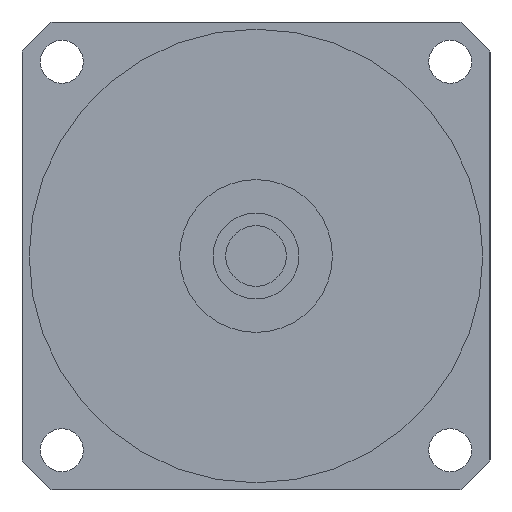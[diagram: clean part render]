
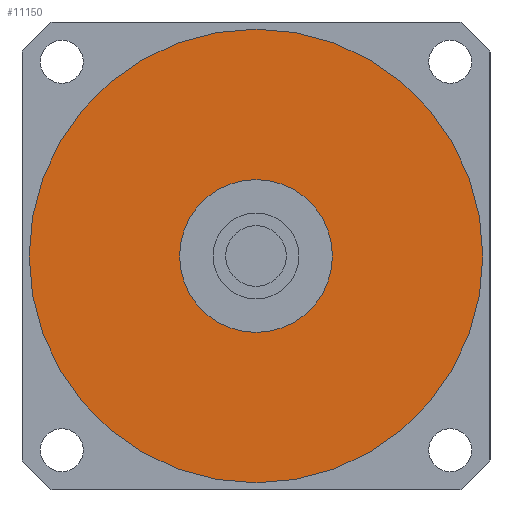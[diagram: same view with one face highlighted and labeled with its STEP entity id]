
A CAD part, left-side view. The second image highlights one B-rep face of the part: STEP entity #11150.
In plain terms, the highlighted planar face has unit normal (-1, 0, 0) as drawn and (0, 0, -1) by its records, which use the part's own axes.
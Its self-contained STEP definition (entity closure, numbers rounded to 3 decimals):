
#10490=CARTESIAN_POINT('',(0.,16.,-32.5));
#10500=VERTEX_POINT('',#10490);
#10550=CARTESIAN_POINT('',(0.,0.,
-32.5));
#10560=DIRECTION('',(0.,0.,1.));
#10570=DIRECTION('',(1.,0.,0.));
#10580=AXIS2_PLACEMENT_3D('',#10550,#10560,#10570);
#10590=CIRCLE('',#10580,16.);
#10600=CARTESIAN_POINT('',(0.,-16.,-32.5));
#10610=VERTEX_POINT('',#10600);
#10620=EDGE_CURVE('',#10500,#10610,#10590,.T.);
#10820=CARTESIAN_POINT('',(0.,0.,
-32.5));
#10830=DIRECTION('',(0.,0.,1.));
#10840=DIRECTION('',(0.,1.,0.));
#10850=AXIS2_PLACEMENT_3D('',#10820,#10830,#10840);
#10860=PLANE('',#10850);
#10870=CARTESIAN_POINT('',(0.,0.,
-32.5));
#10880=DIRECTION('',(0.,0.,1.));
#10890=DIRECTION('',(1.,0.,0.));
#10900=AXIS2_PLACEMENT_3D('',#10870,#10880,#10890);
#10910=CIRCLE('',#10900,47.5);
#10920=CARTESIAN_POINT('',(47.5,0.,-32.5));
#10930=VERTEX_POINT('',#10920);
#10940=CARTESIAN_POINT('',(0.,47.5,-32.5));
#10950=VERTEX_POINT('',#10940);
#10960=EDGE_CURVE('',#10930,#10950,#10910,.T.);
#10970=ORIENTED_EDGE('',*,*,#10960,.F.);
#10980=CARTESIAN_POINT('',(0.,-47.5,-32.5));
#10990=VERTEX_POINT('',#10980);
#11000=EDGE_CURVE('',#10950,#10990,#10910,.T.);
#11010=ORIENTED_EDGE('',*,*,#11000,.F.);
#11020=EDGE_CURVE('',#10990,#10930,#10910,.T.);
#11030=ORIENTED_EDGE('',*,*,#11020,.F.);
#11040=EDGE_LOOP('',(#11030,#11010,#10970));
#11050=FACE_OUTER_BOUND('',#11040,.T.);
#11060=ORIENTED_EDGE('',*,*,#10620,.T.);
#11070=CARTESIAN_POINT('',(16.,0.,-32.5));
#11080=VERTEX_POINT('',#11070);
#11090=EDGE_CURVE('',#11080,#10500,#10590,.T.);
#11100=ORIENTED_EDGE('',*,*,#11090,.T.);
#11110=EDGE_CURVE('',#10610,#11080,#10590,.T.);
#11120=ORIENTED_EDGE('',*,*,#11110,.T.);
#11130=EDGE_LOOP('',(#11120,#11100,#11060));
#11140=FACE_BOUND('',#11130,.T.);
#11150=ADVANCED_FACE('',(#11050,#11140),#10860,.F.);
